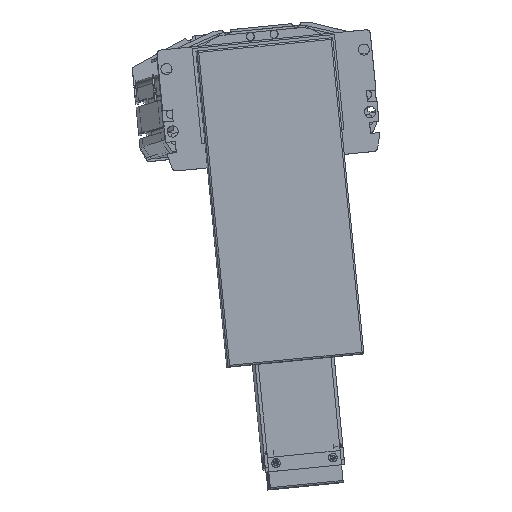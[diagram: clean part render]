
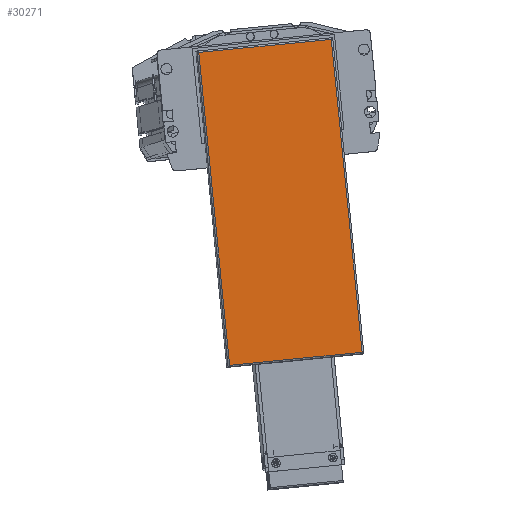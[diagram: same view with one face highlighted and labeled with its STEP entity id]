
A CAD part, top view. The second image highlights one B-rep face of the part: STEP entity #30271.
In plain terms, the highlighted planar face has unit normal (0.017, 0.003, 1) as drawn and (0, 0, 1) by its records, which use the part's own axes.
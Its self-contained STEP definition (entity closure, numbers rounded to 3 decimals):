
#14668 = LINE ( 'NONE', #14721, #14720 ) ;
#14671 = CARTESIAN_POINT ( 'NONE',  ( 41.95, 72.75, 44. ) ) ;
#14707 = DIRECTION ( 'NONE',  ( 0., -1., 0. ) ) ;
#14720 = VECTOR ( 'NONE', #14707, 1000. ) ;
#14721 = CARTESIAN_POINT ( 'NONE',  ( -41.95, -126.25, 44. ) ) ;
#14804 = DIRECTION ( 'NONE',  ( 1., 0., 0. ) ) ;
#14805 = VECTOR ( 'NONE', #14804, 1000. ) ;
#14806 = CARTESIAN_POINT ( 'NONE',  ( -42.95, -125.25, 44. ) ) ;
#14807 = LINE ( 'NONE', #14806, #14805 ) ;
#14937 = DIRECTION ( 'NONE',  ( 0., 1., 0. ) ) ;
#14938 = VECTOR ( 'NONE', #14937, 1000. ) ;
#14940 = CARTESIAN_POINT ( 'NONE',  ( 41.95, -126.25, 44. ) ) ;
#14941 = LINE ( 'NONE', #14940, #14938 ) ;
#15740 = FACE_OUTER_BOUND ( 'NONE', #28701, .T. ) ;
#15747 = AXIS2_PLACEMENT_3D ( 'NONE', #15808, #15807, #15806 ) ;
#15762 = PLANE ( 'NONE',  #15747 ) ;
#15806 = DIRECTION ( 'NONE',  ( 1., 0., 0. ) ) ;
#15807 = DIRECTION ( 'NONE',  ( 0., 0., 1. ) ) ;
#15808 = CARTESIAN_POINT ( 'NONE',  ( -42.95, -126.25, 44. ) ) ;
#26287 = VERTEX_POINT ( 'NONE', #14671 ) ;
#26386 = EDGE_CURVE ( 'NONE', #63576, #39130, #14668, .T. ) ;
#26533 = EDGE_CURVE ( 'NONE', #39130, #38985, #14807, .T. ) ;
#27152 = EDGE_CURVE ( 'NONE', #38985, #26287, #14941, .T. ) ;
#27487 = DIRECTION ( 'NONE',  ( -1., 0., 0. ) ) ;
#27488 = VECTOR ( 'NONE', #27487, 1000. ) ;
#27491 = CARTESIAN_POINT ( 'NONE',  ( -42.95, 72.75, 44. ) ) ;
#27500 = LINE ( 'NONE', #27491, #27488 ) ;
#27574 = CARTESIAN_POINT ( 'NONE',  ( 41.95, -125.25, 44. ) ) ;
#27772 = CARTESIAN_POINT ( 'NONE',  ( -41.95, -125.25, 44. ) ) ;
#28701 = EDGE_LOOP ( 'NONE', ( #29148, #31272, #29055, #31516 ) ) ;
#29055 = ORIENTED_EDGE ( 'NONE', *, *, #38929, .T. ) ;
#29148 = ORIENTED_EDGE ( 'NONE', *, *, #26533, .T. ) ;
#30271 = ADVANCED_FACE ( 'NONE', ( #15740 ), #15762, .T. ) ;
#31272 = ORIENTED_EDGE ( 'NONE', *, *, #27152, .T. ) ;
#31516 = ORIENTED_EDGE ( 'NONE', *, *, #26386, .T. ) ;
#38929 = EDGE_CURVE ( 'NONE', #26287, #63576, #27500, .T. ) ;
#38985 = VERTEX_POINT ( 'NONE', #27574 ) ;
#39130 = VERTEX_POINT ( 'NONE', #27772 ) ;
#56458 = CARTESIAN_POINT ( 'NONE',  ( -41.95, 72.75, 44. ) ) ;
#63576 = VERTEX_POINT ( 'NONE', #56458 ) ;
